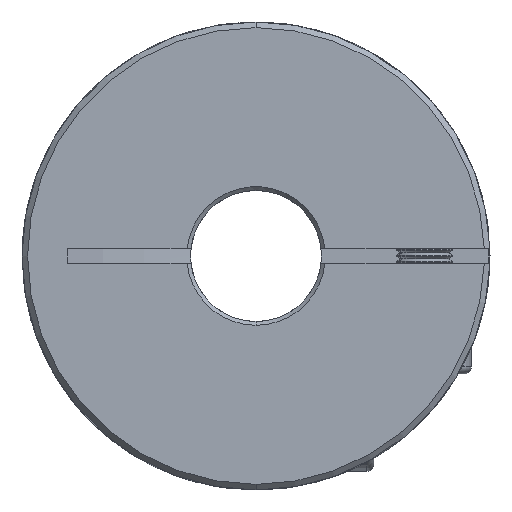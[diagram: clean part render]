
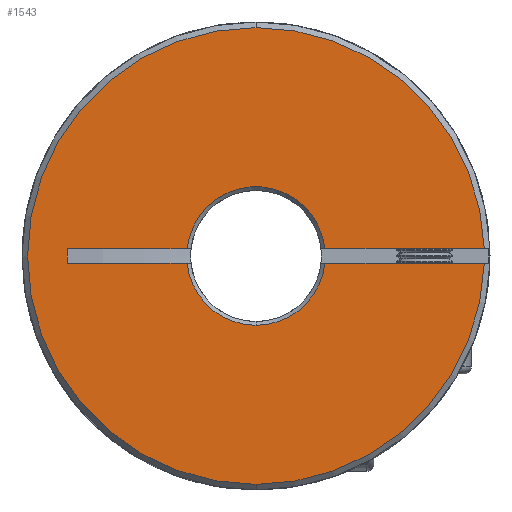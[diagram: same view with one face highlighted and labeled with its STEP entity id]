
A CAD part, front view. The second image highlights one B-rep face of the part: STEP entity #1543.
In plain terms, the highlighted planar face has unit normal (0, -1, 0).
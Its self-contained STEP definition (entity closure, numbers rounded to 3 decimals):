
#103 = CARTESIAN_POINT ( 'NONE',  ( -20.149, 0., -0.75 ) ) ;
#220 = DIRECTION ( 'NONE',  ( 0., 0., 1. ) ) ;
#318 = CARTESIAN_POINT ( 'NONE',  ( -50., 0., 0.75 ) ) ;
#551 = DIRECTION ( 'NONE',  ( 0., 0., 1. ) ) ;
#783 = CARTESIAN_POINT ( 'NONE',  ( 0., 0., 0. ) ) ;
#1496 = VERTEX_POINT ( 'NONE', #1595 ) ;
#1506 = AXIS2_PLACEMENT_3D ( 'NONE', #4223, #10972, #551 ) ;
#1543 = ADVANCED_FACE ( 'NONE', ( #9768 ), #13689, .F. ) ;
#1595 = CARTESIAN_POINT ( 'NONE',  ( -7.362, 0., 0.75 ) ) ;
#1882 = ORIENTED_EDGE ( 'NONE', *, *, #5675, .F. ) ;
#2113 = EDGE_CURVE ( 'NONE', #11711, #7349, #9302, .T. ) ;
#2176 = VERTEX_POINT ( 'NONE', #3456 ) ;
#2357 = CARTESIAN_POINT ( 'NONE',  ( -20.149, 0., 0.75 ) ) ;
#2591 = CARTESIAN_POINT ( 'NONE',  ( -50., 0., -0.75 ) ) ;
#2704 = ORIENTED_EDGE ( 'NONE', *, *, #13074, .T. ) ;
#2768 = DIRECTION ( 'NONE',  ( 0., 0., 1. ) ) ;
#3123 = CIRCLE ( 'NONE', #3559, 7.4 ) ;
#3129 = CARTESIAN_POINT ( 'NONE',  ( 24.388, 0., -0.75 ) ) ;
#3248 = LINE ( 'NONE', #103, #11665 ) ;
#3256 = DIRECTION ( 'NONE',  ( 0., 1., 0. ) ) ;
#3456 = CARTESIAN_POINT ( 'NONE',  ( 0., 0., -7.4 ) ) ;
#3494 = CIRCLE ( 'NONE', #14961, 7.4 ) ;
#3559 = AXIS2_PLACEMENT_3D ( 'NONE', #11292, #4421, #8397 ) ;
#3572 = VECTOR ( 'NONE', #13541, 1000. ) ;
#3625 = VERTEX_POINT ( 'NONE', #2357 ) ;
#3687 = AXIS2_PLACEMENT_3D ( 'NONE', #7140, #9608, #11096 ) ;
#3768 = ORIENTED_EDGE ( 'NONE', *, *, #5793, .T. ) ;
#3798 = EDGE_CURVE ( 'NONE', #2176, #13491, #5271, .T. ) ;
#3835 = CARTESIAN_POINT ( 'NONE',  ( 0., 0., 24.4 ) ) ;
#4223 = CARTESIAN_POINT ( 'NONE',  ( 0., 0., 0. ) ) ;
#4418 = LINE ( 'NONE', #10811, #3572 ) ;
#4421 = DIRECTION ( 'NONE',  ( 0., 1., 0. ) ) ;
#5271 = CIRCLE ( 'NONE', #15019, 7.4 ) ;
#5348 = VECTOR ( 'NONE', #17160, 1000. ) ;
#5408 = ORIENTED_EDGE ( 'NONE', *, *, #2113, .T. ) ;
#5425 = VERTEX_POINT ( 'NONE', #13908 ) ;
#5675 = EDGE_CURVE ( 'NONE', #5425, #11450, #4418, .T. ) ;
#5789 = CIRCLE ( 'NONE', #1506, 24.4 ) ;
#5793 = EDGE_CURVE ( 'NONE', #1496, #11711, #3123, .T. ) ;
#5858 = ORIENTED_EDGE ( 'NONE', *, *, #7934, .F. ) ;
#5950 = ORIENTED_EDGE ( 'NONE', *, *, #3798, .T. ) ;
#6834 = CARTESIAN_POINT ( 'NONE',  ( -50., 0., 32.858 ) ) ;
#6922 = VERTEX_POINT ( 'NONE', #13966 ) ;
#7140 = CARTESIAN_POINT ( 'NONE',  ( 0., 0., 0. ) ) ;
#7349 = VERTEX_POINT ( 'NONE', #11988 ) ;
#7490 = CIRCLE ( 'NONE', #9278, 24.4 ) ;
#7584 = EDGE_CURVE ( 'NONE', #6922, #11450, #14458, .T. ) ;
#7772 = EDGE_CURVE ( 'NONE', #5425, #2176, #3494, .T. ) ;
#7934 = EDGE_CURVE ( 'NONE', #17370, #13491, #16766, .T. ) ;
#8397 = DIRECTION ( 'NONE',  ( 0., 0., 1. ) ) ;
#8827 = DIRECTION ( 'NONE',  ( 0., 1., 0. ) ) ;
#9278 = AXIS2_PLACEMENT_3D ( 'NONE', #783, #14148, #16677 ) ;
#9302 = LINE ( 'NONE', #318, #14188 ) ;
#9357 = ORIENTED_EDGE ( 'NONE', *, *, #14518, .T. ) ;
#9608 = DIRECTION ( 'NONE',  ( 0., -1., 0. ) ) ;
#9768 = FACE_OUTER_BOUND ( 'NONE', #12595, .T. ) ;
#10487 = DIRECTION ( 'NONE',  ( 1., 0., 0. ) ) ;
#10811 = CARTESIAN_POINT ( 'NONE',  ( -50., 0., -0.75 ) ) ;
#10972 = DIRECTION ( 'NONE',  ( 0., -1., 0. ) ) ;
#11017 = DIRECTION ( 'NONE',  ( 0., 0., 1. ) ) ;
#11057 = AXIS2_PLACEMENT_3D ( 'NONE', #6834, #12324, #2768 ) ;
#11096 = DIRECTION ( 'NONE',  ( 0., 0., 1. ) ) ;
#11292 = CARTESIAN_POINT ( 'NONE',  ( 0., 0., 0. ) ) ;
#11450 = VERTEX_POINT ( 'NONE', #3129 ) ;
#11622 = CARTESIAN_POINT ( 'NONE',  ( 0., 0., 0. ) ) ;
#11665 = VECTOR ( 'NONE', #220, 1000. ) ;
#11707 = CARTESIAN_POINT ( 'NONE',  ( 7.362, 0., 0.75 ) ) ;
#11711 = VERTEX_POINT ( 'NONE', #11707 ) ;
#11988 = CARTESIAN_POINT ( 'NONE',  ( 24.388, 0., 0.75 ) ) ;
#12088 = LINE ( 'NONE', #15623, #5348 ) ;
#12099 = ORIENTED_EDGE ( 'NONE', *, *, #7584, .T. ) ;
#12144 = CARTESIAN_POINT ( 'NONE',  ( -20.149, 0., -0.75 ) ) ;
#12324 = DIRECTION ( 'NONE',  ( 0., 1., 0. ) ) ;
#12507 = DIRECTION ( 'NONE',  ( 1., 0., 0. ) ) ;
#12595 = EDGE_LOOP ( 'NONE', ( #1882, #15608, #5950, #5858, #16295, #15122, #3768, #5408, #2704, #9357, #12099 ) ) ;
#13040 = DIRECTION ( 'NONE',  ( 0., 0., 1. ) ) ;
#13074 = EDGE_CURVE ( 'NONE', #7349, #13585, #7490, .T. ) ;
#13491 = VERTEX_POINT ( 'NONE', #16601 ) ;
#13541 = DIRECTION ( 'NONE',  ( 1., 0., 0. ) ) ;
#13585 = VERTEX_POINT ( 'NONE', #3835 ) ;
#13689 = PLANE ( 'NONE',  #11057 ) ;
#13908 = CARTESIAN_POINT ( 'NONE',  ( 7.362, 0., -0.75 ) ) ;
#13966 = CARTESIAN_POINT ( 'NONE',  ( 0., 0., -24.4 ) ) ;
#14037 = CARTESIAN_POINT ( 'NONE',  ( 0., 0., 0. ) ) ;
#14148 = DIRECTION ( 'NONE',  ( 0., -1., 0. ) ) ;
#14188 = VECTOR ( 'NONE', #12507, 1000. ) ;
#14458 = CIRCLE ( 'NONE', #3687, 24.4 ) ;
#14518 = EDGE_CURVE ( 'NONE', #13585, #6922, #5789, .T. ) ;
#14790 = EDGE_CURVE ( 'NONE', #3625, #1496, #12088, .T. ) ;
#14961 = AXIS2_PLACEMENT_3D ( 'NONE', #11622, #8827, #13040 ) ;
#15019 = AXIS2_PLACEMENT_3D ( 'NONE', #14037, #3256, #11017 ) ;
#15122 = ORIENTED_EDGE ( 'NONE', *, *, #14790, .T. ) ;
#15130 = EDGE_CURVE ( 'NONE', #17370, #3625, #3248, .T. ) ;
#15608 = ORIENTED_EDGE ( 'NONE', *, *, #7772, .T. ) ;
#15623 = CARTESIAN_POINT ( 'NONE',  ( -50., 0., 0.75 ) ) ;
#16295 = ORIENTED_EDGE ( 'NONE', *, *, #15130, .T. ) ;
#16547 = VECTOR ( 'NONE', #10487, 1000. ) ;
#16601 = CARTESIAN_POINT ( 'NONE',  ( -7.362, 0., -0.75 ) ) ;
#16677 = DIRECTION ( 'NONE',  ( 0., 0., 1. ) ) ;
#16766 = LINE ( 'NONE', #2591, #16547 ) ;
#17160 = DIRECTION ( 'NONE',  ( 1., 0., 0. ) ) ;
#17370 = VERTEX_POINT ( 'NONE', #12144 ) ;
